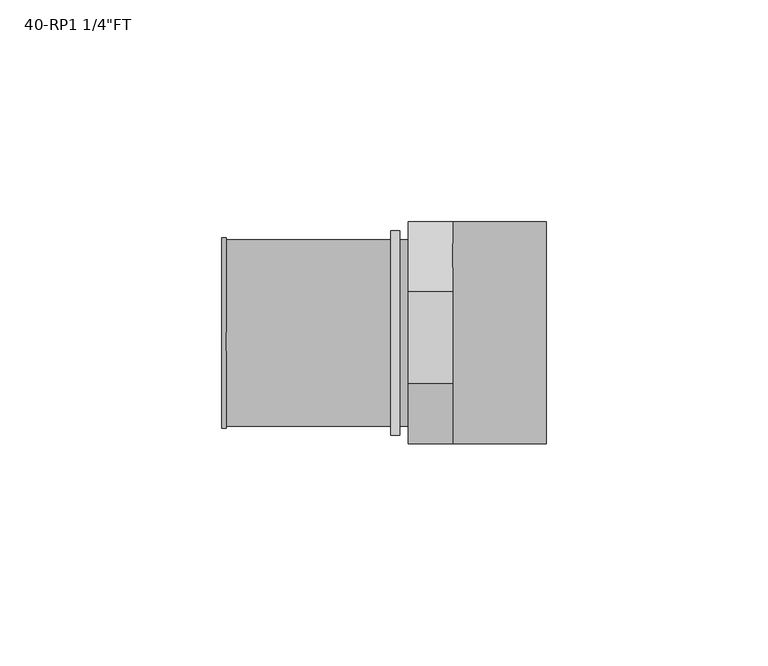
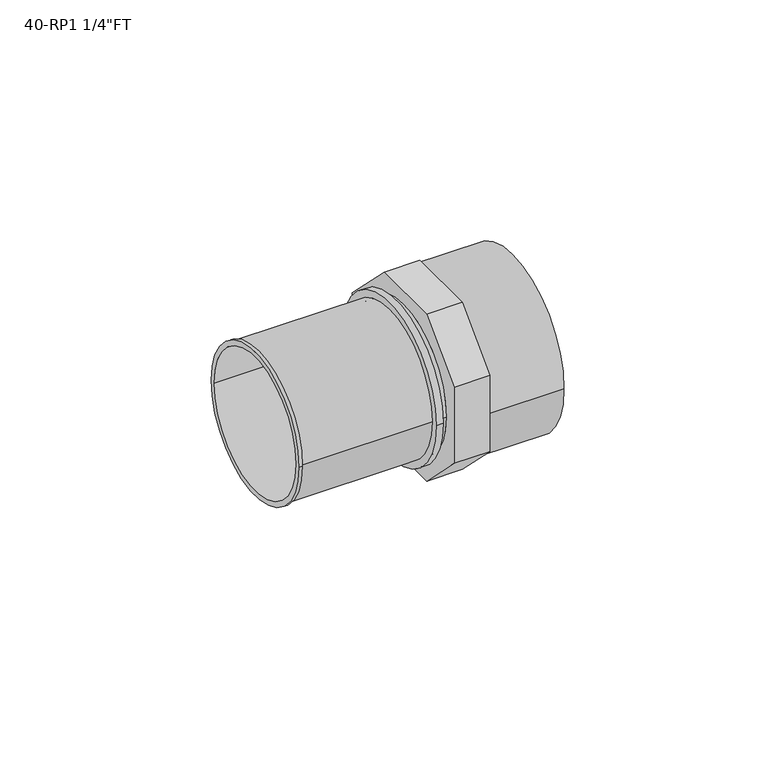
"""IFC4 building model written with IfcOpenShell, lengths in millimetres: pipe fitting geometry."""

from ifc_helpers import new_model, si_unit, point, frame, origin, origin_2d, place, context, project, spatial, polyline, circle_curve, trimmed, segment, composite_curve, outline, extrude, source, transform, mapped, element, save
from ifc_brep_helpers import plane_surface, cylinder_surface, revolved_surface, advanced_brep


def pipe_fitting_791a4e73(model_context):
    return source(origin(), model_context, "Body", "SolidModel", [
        advanced_brep(
        [(-7.0, -21.0, 0.0), (-7.0, 21.0, 0.0), (5.0, -25.0, 11.390873), (5.0, -25.0, -11.390873), (5.0, -11.390873, -25.0), (5.0, 9.3198052, -25.0), (5.0, 25.0, -9.3198052), (5.0, 25.0, 9.3198052), (5.0, 9.3198052, 25.0), (5.0, -11.390873, 25.0), (-5.0, -21.0, 0.0), (-5.0, 21.0, 0.0), (-5.0, -25.0, 11.390873), (-5.0, -11.390873, 25.0), (-5.0, 9.3198052, 25.0), (-5.0, 25.0, 9.3198052), (-5.0, 25.0, -9.3198052), (-5.0, 9.3198052, -25.0), (-5.0, -11.390873, -25.0), (-5.0, -25.0, -11.390873)],
        [
            (0, 1, circle_curve(frame((-7.0, 0.0, 0.0), z_axis=(-1.0, 0.0, 0.0), x_axis=(0.0, 1.0, 0.0)), 21.0)),
            (1, 0, circle_curve(frame((-7.0, 0.0, 0.0), z_axis=(-1.0, 0.0, 0.0), x_axis=(0.0, 1.0, 0.0)), 21.0)),
            (2, 3),
            (3, 4),
            (4, 5),
            (5, 6),
            (6, 7),
            (7, 8),
            (8, 9),
            (9, 2),
            (0, 10),
            (10, 11, circle_curve(frame((-5.0, 0.0, 0.0), z_axis=(-1.0, 0.0, 0.0), x_axis=(0.0, 1.0, 0.0)), 21.0)),
            (11, 1),
            (11, 10, circle_curve(frame((-5.0, 0.0, 0.0), z_axis=(-1.0, 0.0, 0.0), x_axis=(0.0, 1.0, 0.0)), 21.0)),
            (12, 13),
            (13, 14),
            (14, 15),
            (15, 16),
            (16, 17),
            (17, 18),
            (18, 19),
            (19, 12),
            (12, 2),
            (9, 13),
            (8, 14),
            (7, 15),
            (6, 16),
            (5, 17),
            (4, 18),
            (3, 19),
        ],
        [
            plane_surface(frame((-7.0, 0.0, 0.0), z_axis=(-1.0, 0.0, 0.0), x_axis=(0.0, 0.0, 1.0))),
            plane_surface(frame((5.0, 0.0, 0.0), z_axis=(1.0, 0.0, 0.0), x_axis=(0.0, 0.0, 1.0))),
            cylinder_surface(frame((-7.0, 0.0, 0.0), z_axis=(-1.0, 0.0, 0.0), x_axis=(0.0, 1.0, 0.0)), 21.0),
            plane_surface(frame((-5.0, 0.0, 0.0), z_axis=(-1.0, 0.0, 0.0), x_axis=(0.0, 0.0, 1.0))),
            plane_surface(frame((-5.0, -25.0, 11.390873), z_axis=(0.0, -0.7071067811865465, 0.7071067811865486), x_axis=(1.0, 0.0, 0.0))),
            plane_surface(frame((-5.0, -11.390873, 25.0), z_axis=(0.0, 0.0, 1.0), x_axis=(1.0, 0.0, 0.0))),
            plane_surface(frame((-5.0, 9.3198052, 25.0), z_axis=(0.0, 0.70710678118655, 0.7071067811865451), x_axis=(1.0, 0.0, 0.0))),
            plane_surface(frame((-5.0, 25.0, 9.3198052), z_axis=(0.0, 1.0, 0.0), x_axis=(1.0, 0.0, 0.0))),
            plane_surface(frame((-5.0, 25.0, -9.3198052), z_axis=(0.0, 0.7071067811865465, -0.7071067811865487), x_axis=(1.0, 0.0, 0.0))),
            plane_surface(frame((-5.0, 9.3198052, -25.0), z_axis=(0.0, 0.0, -1.0), x_axis=(1.0, 0.0, 0.0))),
            plane_surface(frame((-5.0, -11.390873, -25.0), z_axis=(0.0, -0.7071067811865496, -0.7071067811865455), x_axis=(1.0, 0.0, 0.0))),
            plane_surface(frame((-5.0, -25.0, -11.390873), z_axis=(0.0, -1.0, 0.0), x_axis=(1.0, 0.0, 0.0))),
        ],
        [
            (0, [[1, 2]]),
            (1, [[3, 4, 5, 6, 7, 8, 9, 10]]),
            (2, [[-1, 11, 12, 13]]),
            (2, [[-2, -13, 14, -11]]),
            (3, [[15, 16, 17, 18, 19, 20, 21, 22], [-12, -14]]),
            (4, [[-15, 23, -10, 24]]),
            (5, [[-16, -24, -9, 25]]),
            (6, [[-17, -25, -8, 26]]),
            (7, [[-18, -26, -7, 27]]),
            (8, [[-19, -27, -6, 28]]),
            (9, [[-20, -28, -5, 29]]),
            (10, [[-21, -29, -4, 30]]),
            (11, [[-22, -30, -3, -23]]),
        ],
    ),
        advanced_brep(
        [(-47.0, -21.5, 0.0), (-47.0, 21.5, 0.0), (-47.0, -20.0, 0.0), (-47.0, 20.0, 0.0), (-9.0, -21.0, 0.0), (-9.0, 21.0, 0.0), (-9.0, -20.0, 0.0), (-9.0, 20.0, 0.0), (-46.0, 21.0, 0.0), (-46.0, -21.0, 0.0), (-46.0, -21.5, 0.0), (-46.0, 21.5, 0.0)],
        [
            (0, 1, circle_curve(frame((-47.0, 0.0, 0.0), z_axis=(-1.0, 0.0, 0.0), x_axis=(0.0, 1.0, 0.0)), 21.5)),
            (1, 0, circle_curve(frame((-47.0, 0.0, 0.0), z_axis=(-1.0, 0.0, 0.0), x_axis=(0.0, 1.0, 0.0)), 21.5)),
            (2, 3, circle_curve(frame((-47.0, 0.0, 0.0), z_axis=(1.0, 0.0, 0.0), x_axis=(0.0, 1.0, 0.0)), 20.0)),
            (3, 2, circle_curve(frame((-47.0, 0.0, 0.0), z_axis=(1.0, 0.0, 0.0), x_axis=(0.0, 1.0, 0.0)), 20.0)),
            (4, 5, circle_curve(frame((-9.0, 0.0, 0.0), z_axis=(1.0, 0.0, 0.0), x_axis=(0.0, 1.0, 0.0)), 21.0)),
            (5, 4, circle_curve(frame((-9.0, 0.0, 0.0), z_axis=(1.0, 0.0, 0.0), x_axis=(0.0, 1.0, 0.0)), 21.0)),
            (6, 7, circle_curve(frame((-9.0, 0.0, 0.0), z_axis=(-1.0, 0.0, 0.0), x_axis=(0.0, 1.0, 0.0)), 20.0)),
            (7, 6, circle_curve(frame((-9.0, 0.0, 0.0), z_axis=(-1.0, 0.0, 0.0), x_axis=(0.0, 1.0, 0.0)), 20.0)),
            (2, 6),
            (7, 3),
            (5, 8),
            (8, 9, circle_curve(frame((-46.0, 0.0, 0.0), z_axis=(1.0, 0.0, 0.0), x_axis=(0.0, 1.0, 0.0)), 21.0)),
            (9, 4),
            (9, 8, circle_curve(frame((-46.0, 0.0, 0.0), z_axis=(1.0, 0.0, 0.0), x_axis=(0.0, 1.0, 0.0)), 21.0)),
            (10, 11, circle_curve(frame((-46.0, 0.0, 0.0), z_axis=(1.0, 0.0, 0.0), x_axis=(0.0, 1.0, 0.0)), 21.5)),
            (11, 10, circle_curve(frame((-46.0, 0.0, 0.0), z_axis=(1.0, 0.0, 0.0), x_axis=(0.0, 1.0, 0.0)), 21.5)),
            (0, 10),
            (11, 1),
        ],
        [
            plane_surface(frame((-47.0, 0.0, 0.0), z_axis=(-1.0, 0.0, 0.0), x_axis=(0.0, 0.0, 1.0))),
            plane_surface(frame((-9.0, 0.0, 0.0), z_axis=(1.0, 0.0, 0.0), x_axis=(0.0, 0.0, 1.0))),
            revolved_surface(polyline([(-9.0, 20.0, 0.0), (-47.0, 20.0, 0.0)]), (-47.0, 0.0, 0.0), (1.0, 0.0, 0.0)),
            cylinder_surface(frame((-47.0, 0.0, 0.0), z_axis=(-1.0, 0.0, 0.0), x_axis=(0.0, 1.0, 0.0)), 21.0),
            plane_surface(frame((-46.0, 0.0, 0.0), z_axis=(1.0, 0.0, 0.0), x_axis=(0.0, 0.0, 1.0))),
            cylinder_surface(frame((-47.0, 0.0, 0.0), z_axis=(-1.0, 0.0, 0.0), x_axis=(0.0, 1.0, 0.0)), 21.5),
        ],
        [
            (0, [[1, 2], [3, 4]]),
            (1, [[5, 6], [7, 8]]),
            (2, [[-3, 9, -8, 10]]),
            (2, [[-4, -10, -7, -9]]),
            (3, [[-6, 11, 12, 13]]),
            (3, [[-5, -13, 14, -11]]),
            (4, [[15, 16], [-12, -14]]),
            (5, [[-1, 17, -16, 18]]),
            (5, [[-2, -18, -15, -17]]),
        ],
    ),
        extrude(outline(composite_curve([segment(trimmed(circle_curve(origin_2d(), 25.0), [point((-25.0, 0.0))], [point((25.0, 0.0))], False, "CARTESIAN"), True, "CONTINUOUS"), segment(trimmed(circle_curve(origin_2d(), 25.0), [point((25.0, 0.0))], [point((-25.0, 0.0))], False, "CARTESIAN"), True, "CONTINUOUS")], self_intersect=False), holes=[composite_curve([segment(trimmed(circle_curve(origin_2d(), 20.0), [point((-20.0, 0.0))], [point((20.0, 0.0))], True, "CARTESIAN"), True, "CONTINUOUS"), segment(trimmed(circle_curve(origin_2d(), 20.0), [point((20.0, 0.0))], [point((-20.0, 0.0))], True, "CARTESIAN"), True, "CONTINUOUS")], self_intersect=False)]), frame((5.0, 0.0, 0.0), z_axis=(1.0, 0.0, 0.0), x_axis=(0.0, 1.0, 0.0)), (0.0, 0.0, 1.0), 21.0),
        extrude(outline(composite_curve([segment(trimmed(circle_curve(origin_2d(), 23.0), [point((-23.0, 0.0))], [point((23.0, 0.0))], False, "CARTESIAN"), True, "CONTINUOUS"), segment(trimmed(circle_curve(origin_2d(), 23.0), [point((23.0, 0.0))], [point((-23.0, 0.0))], False, "CARTESIAN"), True, "CONTINUOUS")], self_intersect=False), holes=[composite_curve([segment(trimmed(circle_curve(origin_2d(), 20.0), [point((-20.0, 0.0))], [point((20.0, 0.0))], True, "CARTESIAN"), True, "CONTINUOUS"), segment(trimmed(circle_curve(origin_2d(), 20.0), [point((20.0, 0.0))], [point((-20.0, 0.0))], True, "CARTESIAN"), True, "CONTINUOUS")], self_intersect=False)]), frame((-9.0, 0.0, 0.0), z_axis=(1.0, 0.0, 0.0), x_axis=(0.0, 1.0, 0.0)), (0.0, 0.0, 1.0), 2.0),
    ])


if __name__ == "__main__":
    model = new_model("IFC4")
    model_context = context("Model", 3, world=origin())
    ifc_project = project(units=[si_unit("LENGTHUNIT", "METRE", prefix="MILLI")], contexts=[model_context])
    site = spatial("IfcSite", under=ifc_project)
    building = spatial("IfcBuilding", under=site)
    placement = place(None, origin())
    pipe_fitting_shape = pipe_fitting_791a4e73(model_context)
    element("IfcPipeFitting", 1, ObjectType="SuperPipe_AdapterFT_SPress_RP : 40-RP1 1/4\"FT", at=placement, inside=building, context=model_context, shape_type="MappedRepresentation", body=[
        mapped(pipe_fitting_shape, transform((0.0, 0.0, 0.0), x_axis=(1.0, 0.0, 0.0), y_axis=(0.0, 1.0, 0.0), z_axis=(0.0, 0.0, 1.0))),
    ])
    save(model, "model.ifc")
